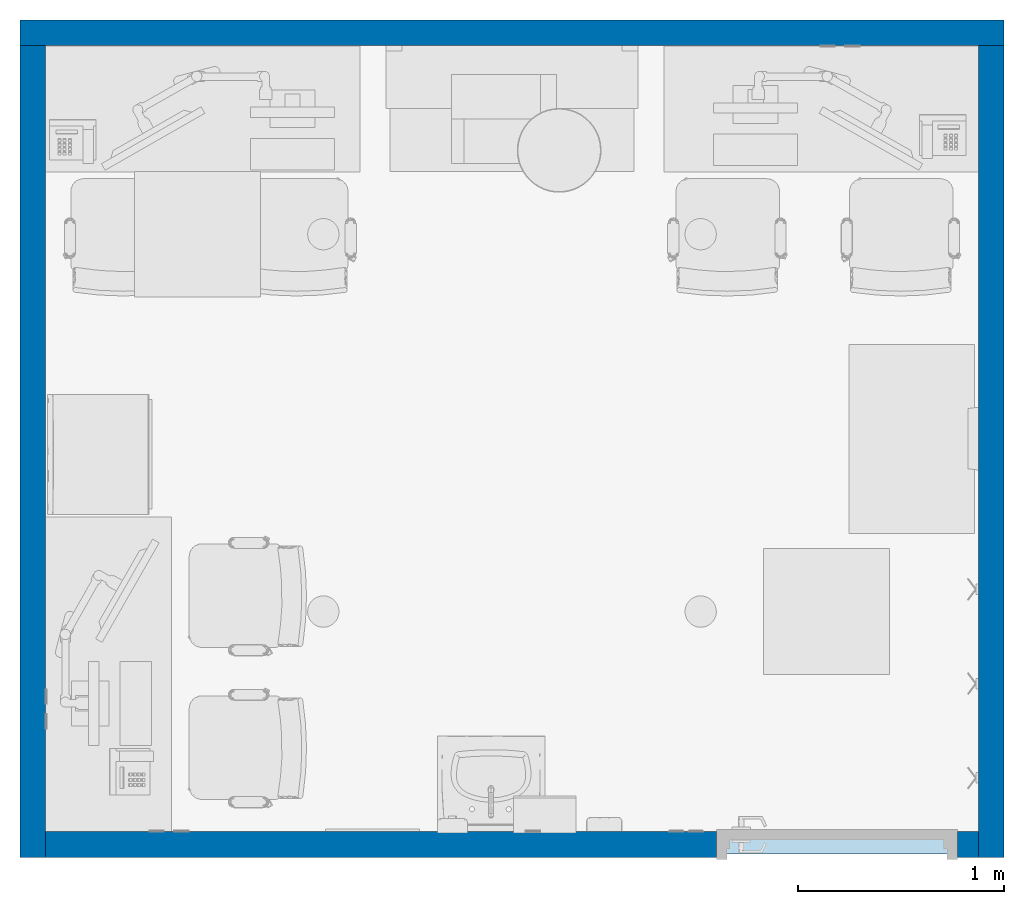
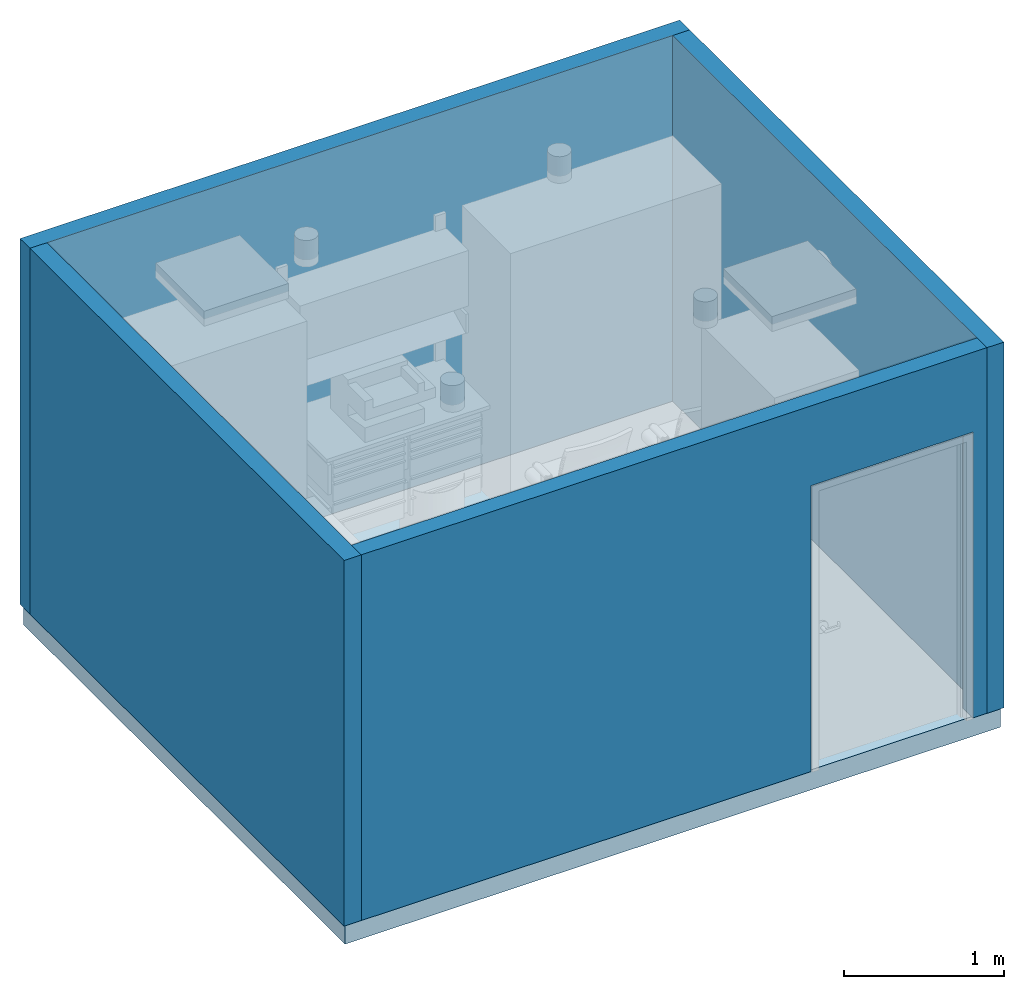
# One storey, part 1 of 15: 4 walls, 1 slab, 1 opening.
"""IFC2X3 building model written with IfcOpenShell, lengths in feet."""

from ifc_helpers import new_model, entity, si_unit, converted_unit, derived_unit, direction, frame, frame_2d, origin, place, context, subcontext, project, spatial, rectangle, extrude, material, layer, layer_set, layer_usage, type_object, element, save


model = new_model("IFC2X3")

# Units and contexts
model_context = context("Model", 3, precision=0.0001, world=origin(), true_north=direction((6.12303176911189e-17, 1.0)))
body_context = subcontext(model_context, "Body", "Model", "MODEL_VIEW")
ifc_project = project(units=[converted_unit("LENGTHUNIT", "FOOT", entity("IfcRatioMeasure", 0.3048), si_unit("LENGTHUNIT", "METRE"), dimensions=[1, 0, 0, 0, 0, 0, 0]), converted_unit("AREAUNIT", "SQUARE FOOT", entity("IfcRatioMeasure", 0.09290304), si_unit("AREAUNIT", "SQUARE_METRE"), dimensions=[2, 0, 0, 0, 0, 0, 0]), converted_unit("VOLUMEUNIT", "CUBIC FOOT", entity("IfcRatioMeasure", 0.028316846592), si_unit("VOLUMEUNIT", "CUBIC_METRE"), dimensions=[3, 0, 0, 0, 0, 0, 0]), converted_unit("PLANEANGLEUNIT", "DEGREE", entity("IfcRatioMeasure", 0.0174532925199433), si_unit("PLANEANGLEUNIT", "RADIAN"), dimensions=[0, 0, 0, 0, 0, 0, 0]), si_unit("MASSUNIT", "GRAM", prefix="KILO"), derived_unit("MASSDENSITYUNIT", [(si_unit("MASSUNIT", "GRAM", prefix="KILO"), 1), (si_unit("LENGTHUNIT", "METRE"), -3)]), si_unit("TIMEUNIT", "SECOND"), si_unit("FREQUENCYUNIT", "HERTZ"), si_unit("THERMODYNAMICTEMPERATUREUNIT", "DEGREE_CELSIUS"), derived_unit("THERMALTRANSMITTANCEUNIT", [(si_unit("MASSUNIT", "GRAM", prefix="KILO"), 1), (si_unit("THERMODYNAMICTEMPERATUREUNIT", "KELVIN"), -1), (si_unit("TIMEUNIT", "SECOND"), -3)]), derived_unit("VOLUMETRICFLOWRATEUNIT", [(si_unit("LENGTHUNIT", "METRE"), 3), (si_unit("TIMEUNIT", "SECOND"), -1)]), si_unit("ELECTRICCURRENTUNIT", "AMPERE"), si_unit("ELECTRICVOLTAGEUNIT", "VOLT"), si_unit("POWERUNIT", "WATT"), si_unit("FORCEUNIT", "NEWTON"), si_unit("ILLUMINANCEUNIT", "LUX"), si_unit("LUMINOUSFLUXUNIT", "LUMEN"), si_unit("LUMINOUSINTENSITYUNIT", "CANDELA"), derived_unit("USERDEFINED", [(si_unit("MASSUNIT", "GRAM", prefix="KILO"), -1), (si_unit("LENGTHUNIT", "METRE"), -2), (si_unit("TIMEUNIT", "SECOND"), 3), (si_unit("LUMINOUSFLUXUNIT", "LUMEN"), 1)]), derived_unit("LINEARVELOCITYUNIT", [(si_unit("LENGTHUNIT", "METRE"), 1), (si_unit("TIMEUNIT", "SECOND"), -1)]), si_unit("PRESSUREUNIT", "PASCAL"), derived_unit("USERDEFINED", [(si_unit("LENGTHUNIT", "METRE"), -2), (si_unit("MASSUNIT", "GRAM", prefix="KILO"), 1), (si_unit("TIMEUNIT", "SECOND"), -2)])], contexts=[model_context])

# Site, building, storey
site_placement = place(None, origin())
site = spatial("IfcSite", under=ifc_project, at=site_placement, Name="Default", CompositionType="ELEMENT")
building_placement = place(site_placement, origin())
building = spatial("IfcBuilding", under=site, at=building_placement, Name="EYE CLINIC:  OPTHALMOLOGY AND OPTOMETRY SERVICES (Ch. 233)", CompositionType="ELEMENT")
storey_placement = place(building_placement, origin())
storey = spatial("IfcBuildingStorey", under=building, at=storey_placement, Name="DATUM", CompositionType="ELEMENT", Elevation=0.0)

# Slab
ifc_material_1 = material(Name="Default Floor")
ifc_layer_1 = layer(ifc_material_1, 0.5)
ifc_layer_set_1 = layer_set([ifc_layer_1], Name="Floor:Generic - 6\"")
ifc_layer_usage_1 = layer_usage(ifc_layer_set_1, "AXIS3", "POSITIVE", 0.0)
slab_placement = place(storey_placement, origin())
element("IfcSlab", 1, at=slab_placement, inside=storey, material=ifc_layer_usage_1, Name="Floor:Generic - 6\"", ObjectType="Floor:Generic - 6\"", PredefinedType="FLOOR", context=body_context, shape_type="SweptSolid", body=[
    extrude(rectangle(XDim=13.2083333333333, YDim=15.5416666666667, at=frame_2d((8.88178419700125e-16, -2.8421709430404e-14), x_axis=(1.0, 0.0))), frame((342.223102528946, 5.05762568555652, 0.0), z_axis=(0.0, 0.0, -1.0), x_axis=(0.0, 1.0, 0.0)), (0.0, 0.0, 1.0), 0.5),
])

# Wall
ifc_material_2 = material(Name="Default Wall")
ifc_layer_2 = layer(ifc_material_2, 0.40625)
ifc_layer_set_2 = layer_set([ifc_layer_2], Name="Basic Wall:Interior - 4 7/8\"")
ifc_layer_usage_2 = layer_usage(ifc_layer_set_2, "AXIS2", "NEGATIVE", 0.203125)
wall_type = type_object("IfcWallType", Name="Basic Wall:Interior - 4 7/8\"", PredefinedType="STANDARD", material=ifc_layer_set_2)
wall_1_placement = place(storey_placement, frame((334.400185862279, 11.5107506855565, 0.0)))
element("IfcWallStandardCase", 2, at=wall_1_placement, inside=storey, type_object=wall_type, material=ifc_layer_usage_2, Name="Basic Wall:Interior - 4 7/8\"", ObjectType="Basic Wall:Interior - 4 7/8\"", context=body_context, shape_type="SweptSolid", body=[
    extrude(rectangle(XDim=15.6458333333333, YDim=0.40625, at=frame_2d((7.82291666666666, 1.52655665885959e-16), x_axis=(-1.0, 0.0))), origin(), (0.0, 0.0, 1.0), 9.16666666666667),
])

# Wall, opening
ifc_layer_usage_3 = layer_usage(ifc_layer_set_2, "AXIS2", "NEGATIVE", 0.203125)
wall_2_placement = place(storey_placement, frame((349.639769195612, -1.3954993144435, 0.0), z_axis=(0.0, 0.0, 1.0), x_axis=(-1.0, 0.0, 0.0)))
wall_2 = element("IfcWallStandardCase", 3, at=wall_2_placement, inside=storey, type_object=wall_type, material=ifc_layer_usage_3, Name="Basic Wall:Interior - 4 7/8\"", ObjectType="Basic Wall:Interior - 4 7/8\"", context=body_context, shape_type="SweptSolid", body=[
    extrude(rectangle(XDim=14.8333333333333, YDim=0.40625, at=frame_2d((7.41666666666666, -4.16333634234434e-17), x_axis=(-1.0, 0.0))), origin(), (0.0, 0.0, 1.0), 9.16666666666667),
])
opening_placement = place(wall_2_placement, frame((4.16666666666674, 0.203124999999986, 0.0)))
element("IfcOpeningElement", 4, at=opening_placement, cuts=wall_2, Name="Single - Flush:42\" x 84\":1", ObjectType="Opening", context=body_context, shape_type="SweptSolid", body=[
    extrude(rectangle(XDim=3.83333333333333, YDim=7.16666666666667, at=frame_2d((3.58333333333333, 1.91666666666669), x_axis=(0.0, 1.0))), frame((0.0, 0.0, 0.0), z_axis=(0.0, -1.0, 0.0), x_axis=(0.0, 0.0, 1.0)), (0.0, 0.0, 1.0), 0.40625),
])

# Walls
ifc_layer_usage_4 = layer_usage(ifc_layer_set_2, "AXIS2", "POSITIVE", -0.203125)
wall_3_placement = place(storey_placement, frame((334.603310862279, 11.3076256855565, 0.0), z_axis=(0.0, 0.0, 1.0), x_axis=(0.0, -1.0, 0.0)))
element("IfcWallStandardCase", 5, at=wall_3_placement, inside=storey, type_object=wall_type, material=ifc_layer_usage_4, Name="Basic Wall:Interior - 4 7/8\"", ObjectType="Basic Wall:Interior - 4 7/8\"", context=body_context, shape_type="SweptSolid", body=[
    extrude(rectangle(XDim=12.90625, YDim=0.40625, at=frame_2d((6.453125, 1.03111963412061e-14), x_axis=(-1.0, 0.0))), origin(), (0.0, 0.0, 1.0), 9.16666666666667),
])
ifc_layer_usage_5 = layer_usage(ifc_layer_set_2, "AXIS2", "NEGATIVE", 0.203125)
wall_4_placement = place(storey_placement, frame((349.842894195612, 11.3076256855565, 0.0), z_axis=(0.0, 0.0, 1.0), x_axis=(0.0, -1.0, 0.0)))
element("IfcWallStandardCase", 6, at=wall_4_placement, inside=storey, type_object=wall_type, material=ifc_layer_usage_5, Name="Basic Wall:Interior - 4 7/8\"", ObjectType="Basic Wall:Interior - 4 7/8\"", context=body_context, shape_type="SweptSolid", body=[
    extrude(rectangle(XDim=12.90625, YDim=0.40625, at=frame_2d((6.453125, 1.03111963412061e-14), x_axis=(-1.0, 0.0))), origin(), (0.0, 0.0, 1.0), 9.16666666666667),
])

save(model, "model.ifc")
